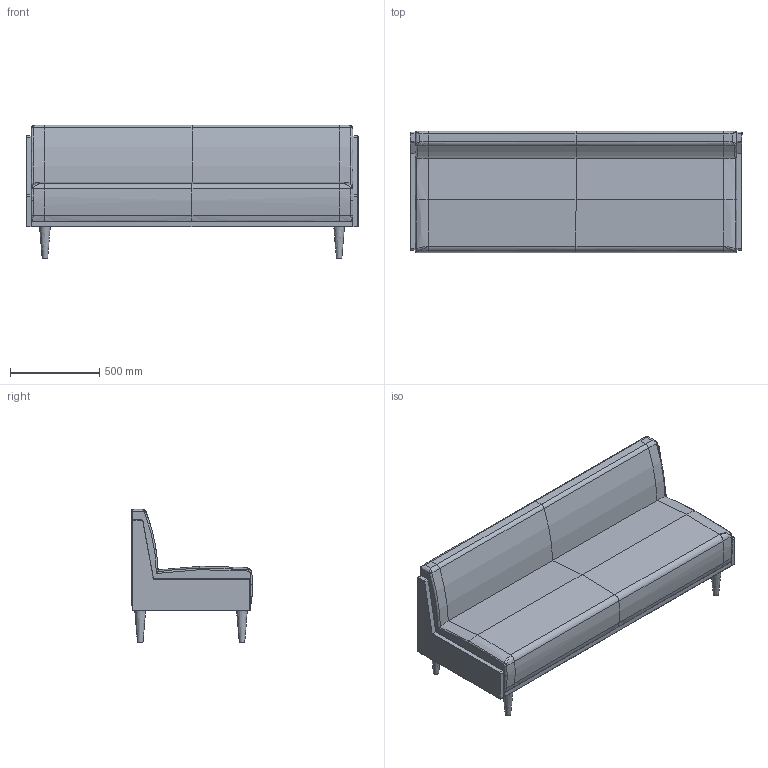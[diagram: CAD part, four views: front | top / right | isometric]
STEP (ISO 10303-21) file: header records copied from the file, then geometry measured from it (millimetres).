
FILE_DESCRIPTION(/* description */ (''),/* implementation_level */ '2;1');
FILE_NAME(/* name */ 'KINOSH~4',/* time_stamp */ '2022-04-08T13:30:56+09:00',/* author */ (''),/* organization */ (''),/* preprocessor_version */ 'ST-DEVELOPER v16.5',/* originating_system */ '',/* authorisation */ '');
FILE_SCHEMA (('AUTOMOTIVE_DESIGN'));
Length unit declared in the file: millimetre
Products named in the file (1): Document
Bounding box: 1860 x 680 x 750 mm (x, y, z)
Volume: 377857523.3 mm3; surface area: 8094940 mm2
Topology: 2 solids, 5 shells, 195 faces, 436 edges, 238 vertices
Faces by surface type: bspline 174, plane 21
Entity records: 17376 total; most frequent: CARTESIAN_POINT 15020, ORIENTED_EDGE 814, EDGE_CURVE 418, VERTEX_POINT 234, EDGE_LOOP 199, ADVANCED_FACE 195, FACE_OUTER_BOUND 195, B_SPLINE_CURVE_WITH_KNOTS 123
